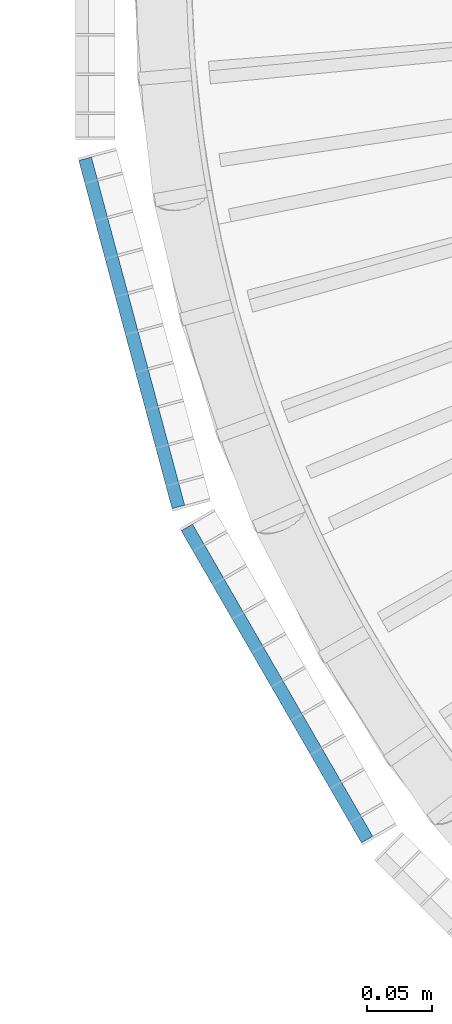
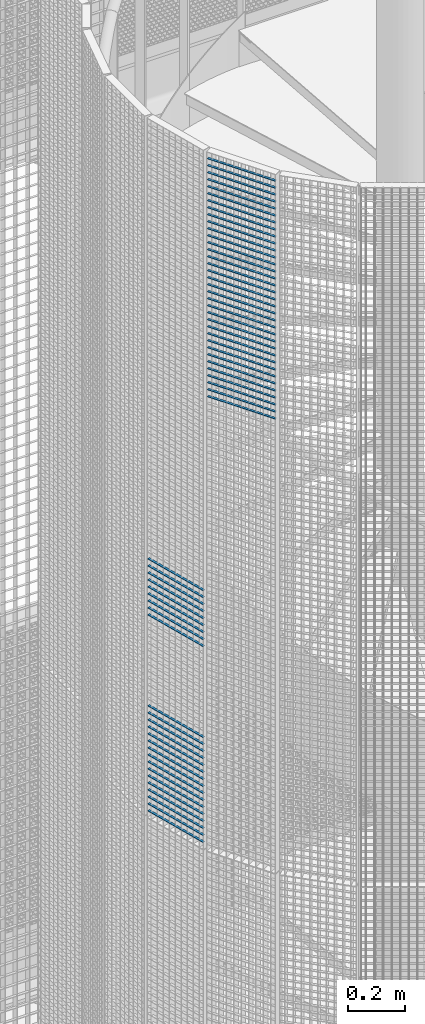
# One storey, part 325 of 1148: 60 beams, 2 elements without a shape of their own.
"""IFC2X3 building model written with IfcOpenShell, lengths in millimetres."""

from ifc_helpers import new_model, si_unit, frame, origin_with_axes, origin_2d_with_axis, place, context, subcontext, project, spatial, rectangle, extrude, material, type_object, element, aggregate, save


model = new_model("IFC2X3")

# Units and contexts
model_context = context("Model", 3, precision=1e-05, world=origin_with_axes())
body_context = subcontext(model_context, "Body", "Model", "MODEL_VIEW")
ifc_project = project(units=[si_unit("LENGTHUNIT", "METRE", prefix="MILLI"), si_unit("AREAUNIT", "SQUARE_METRE"), si_unit("VOLUMEUNIT", "CUBIC_METRE"), si_unit("MASSUNIT", "GRAM", prefix="KILO"), si_unit("TIMEUNIT", "SECOND"), si_unit("PLANEANGLEUNIT", "RADIAN"), si_unit("SOLIDANGLEUNIT", "STERADIAN"), si_unit("THERMODYNAMICTEMPERATUREUNIT", "DEGREE_CELSIUS"), si_unit("LUMINOUSINTENSITYUNIT", "LUMEN")], contexts=[model_context])

# Site, building, storey
site_placement = place(None, origin_with_axes())
site = spatial("IfcSite", under=ifc_project, at=site_placement, Name="Undefined", CompositionType="ELEMENT")
building_placement = place(site_placement, origin_with_axes())
building = spatial("IfcBuilding", under=site, at=building_placement, Name="Undefined", CompositionType="ELEMENT")
storey_placement = place(building_placement, origin_with_axes())
storey = spatial("IfcBuildingStorey", under=building, at=storey_placement, Name="Undefined", CompositionType="ELEMENT", Elevation=0.0)

# Assembly, beams
assembly_1_placement = place(storey_placement, origin_with_axes())
assembly_1 = element("IfcElementAssembly", 1, at=assembly_1_placement, inside=storey, Name="BORDURE", AssemblyPlace="NOTDEFINED", PredefinedType="NOTDEFINED")
ifc_material = material(Name="STEEL/S235JR")
beam_type = type_object("IfcBeamType", Name="PL2*10", PredefinedType="NOTDEFINED")
beam_1_placement = place(assembly_1_placement, frame((20560.1769047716, -421.483733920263, 15480.0), z_axis=(-0.965925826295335, -0.258819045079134, 0.0), x_axis=(-0.258819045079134, 0.965925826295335, 0.0)))
beam_1 = element("IfcBeam", 2, at=beam_1_placement, type_object=beam_type, material=ifc_material, Name="ENTRETOISE", context=body_context, shape_type="SweptSolid", body=[
    extrude(rectangle(XDim=2.0, YDim=10.0, at=origin_2d_with_axis()), frame((275.999999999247, 9.09494701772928e-13, 1.53210777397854e-14), z_axis=(-1.0, 0.0, 0.0), x_axis=(0.0, -1.0, 0.0)), (0.0, 0.0, 1.0), 276.0),
])
beam_2_placement = place(assembly_1_placement, frame((20560.1769047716, -421.483733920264, 15870.0), z_axis=(-0.965925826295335, -0.258819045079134, 0.0), x_axis=(-0.258819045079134, 0.965925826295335, 0.0)))
beam_2 = element("IfcBeam", 3, at=beam_2_placement, type_object=beam_type, material=ifc_material, Name="ENTRETOISE", context=body_context, shape_type="SweptSolid", body=[
    extrude(rectangle(XDim=2.0, YDim=10.0, at=origin_2d_with_axis()), frame((275.999999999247, 9.09494701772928e-13, 1.53210777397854e-14), z_axis=(-1.0, 0.0, 0.0), x_axis=(0.0, -1.0, 0.0)), (0.0, 0.0, 1.0), 276.0),
])
beam_3_placement = place(assembly_1_placement, frame((20560.1769047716, -421.483733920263, 15450.0), z_axis=(-0.965925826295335, -0.258819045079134, 0.0), x_axis=(-0.258819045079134, 0.965925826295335, 0.0)))
beam_3 = element("IfcBeam", 4, at=beam_3_placement, type_object=beam_type, material=ifc_material, Name="ENTRETOISE", context=body_context, shape_type="SweptSolid", body=[
    extrude(rectangle(XDim=2.0, YDim=10.0, at=origin_2d_with_axis()), frame((275.999999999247, 9.09494701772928e-13, 1.53210777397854e-14), z_axis=(-1.0, 0.0, 0.0), x_axis=(0.0, -1.0, 0.0)), (0.0, 0.0, 1.0), 276.0),
])
beam_4_placement = place(assembly_1_placement, frame((20560.1769047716, -421.483733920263, 15420.0), z_axis=(-0.965925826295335, -0.258819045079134, 0.0), x_axis=(-0.258819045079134, 0.965925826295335, 0.0)))
beam_4 = element("IfcBeam", 5, at=beam_4_placement, type_object=beam_type, material=ifc_material, Name="ENTRETOISE", context=body_context, shape_type="SweptSolid", body=[
    extrude(rectangle(XDim=2.0, YDim=10.0, at=origin_2d_with_axis()), frame((275.999999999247, 9.09494701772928e-13, 1.53210777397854e-14), z_axis=(-1.0, 0.0, 0.0), x_axis=(0.0, -1.0, 0.0)), (0.0, 0.0, 1.0), 276.0),
])
beam_5_placement = place(assembly_1_placement, frame((20560.1769047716, -421.483733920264, 15900.0), z_axis=(-0.965925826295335, -0.258819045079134, 0.0), x_axis=(-0.258819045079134, 0.965925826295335, 0.0)))
beam_5 = element("IfcBeam", 6, at=beam_5_placement, type_object=beam_type, material=ifc_material, Name="ENTRETOISE", context=body_context, shape_type="SweptSolid", body=[
    extrude(rectangle(XDim=2.0, YDim=10.0, at=origin_2d_with_axis()), frame((275.999999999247, 9.09494701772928e-13, 1.53210777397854e-14), z_axis=(-1.0, 0.0, 0.0), x_axis=(0.0, -1.0, 0.0)), (0.0, 0.0, 1.0), 276.0),
])
beam_6_placement = place(assembly_1_placement, frame((20560.1769047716, -421.483733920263, 15390.0), z_axis=(-0.965925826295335, -0.258819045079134, 0.0), x_axis=(-0.258819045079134, 0.965925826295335, 0.0)))
beam_6 = element("IfcBeam", 7, at=beam_6_placement, type_object=beam_type, material=ifc_material, Name="ENTRETOISE", context=body_context, shape_type="SweptSolid", body=[
    extrude(rectangle(XDim=2.0, YDim=10.0, at=origin_2d_with_axis()), frame((275.999999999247, 9.09494701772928e-13, 1.53210777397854e-14), z_axis=(-1.0, 0.0, 0.0), x_axis=(0.0, -1.0, 0.0)), (0.0, 0.0, 1.0), 276.0),
])
beam_7_placement = place(assembly_1_placement, frame((20560.1769047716, -421.483733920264, 15930.0), z_axis=(-0.965925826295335, -0.258819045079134, 0.0), x_axis=(-0.258819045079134, 0.965925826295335, 0.0)))
beam_7 = element("IfcBeam", 8, at=beam_7_placement, type_object=beam_type, material=ifc_material, Name="ENTRETOISE", context=body_context, shape_type="SweptSolid", body=[
    extrude(rectangle(XDim=2.0, YDim=10.0, at=origin_2d_with_axis()), frame((275.999999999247, 9.09494701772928e-13, 1.53210777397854e-14), z_axis=(-1.0, 0.0, 0.0), x_axis=(0.0, -1.0, 0.0)), (0.0, 0.0, 1.0), 276.0),
])
beam_8_placement = place(assembly_1_placement, frame((20560.1769047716, -421.483733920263, 15360.0), z_axis=(-0.965925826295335, -0.258819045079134, 0.0), x_axis=(-0.258819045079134, 0.965925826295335, 0.0)))
beam_8 = element("IfcBeam", 9, at=beam_8_placement, type_object=beam_type, material=ifc_material, Name="ENTRETOISE", context=body_context, shape_type="SweptSolid", body=[
    extrude(rectangle(XDim=2.0, YDim=10.0, at=origin_2d_with_axis()), frame((275.999999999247, 9.09494701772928e-13, 1.53210777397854e-14), z_axis=(-1.0, 0.0, 0.0), x_axis=(0.0, -1.0, 0.0)), (0.0, 0.0, 1.0), 276.0),
])
beam_9_placement = place(assembly_1_placement, frame((20560.1769047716, -421.483733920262, 15330.0), z_axis=(-0.965925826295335, -0.258819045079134, 0.0), x_axis=(-0.258819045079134, 0.965925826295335, 0.0)))
beam_9 = element("IfcBeam", 10, at=beam_9_placement, type_object=beam_type, material=ifc_material, Name="ENTRETOISE", context=body_context, shape_type="SweptSolid", body=[
    extrude(rectangle(XDim=2.0, YDim=10.0, at=origin_2d_with_axis()), frame((275.999999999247, 9.09494701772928e-13, 1.53210777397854e-14), z_axis=(-1.0, 0.0, 0.0), x_axis=(0.0, -1.0, 0.0)), (0.0, 0.0, 1.0), 276.0),
])
beam_10_placement = place(assembly_1_placement, frame((20560.1769047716, -421.483733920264, 15960.0), z_axis=(-0.965925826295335, -0.258819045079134, 0.0), x_axis=(-0.258819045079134, 0.965925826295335, 0.0)))
beam_10 = element("IfcBeam", 11, at=beam_10_placement, type_object=beam_type, material=ifc_material, Name="ENTRETOISE", context=body_context, shape_type="SweptSolid", body=[
    extrude(rectangle(XDim=2.0, YDim=10.0, at=origin_2d_with_axis()), frame((275.999999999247, 9.09494701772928e-13, 1.53210777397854e-14), z_axis=(-1.0, 0.0, 0.0), x_axis=(0.0, -1.0, 0.0)), (0.0, 0.0, 1.0), 276.0),
])
beam_11_placement = place(assembly_1_placement, frame((20560.1769047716, -421.483733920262, 15300.0), z_axis=(-0.965925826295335, -0.258819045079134, 0.0), x_axis=(-0.258819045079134, 0.965925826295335, 0.0)))
beam_11 = element("IfcBeam", 12, at=beam_11_placement, type_object=beam_type, material=ifc_material, Name="ENTRETOISE", context=body_context, shape_type="SweptSolid", body=[
    extrude(rectangle(XDim=2.0, YDim=10.0, at=origin_2d_with_axis()), frame((275.999999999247, 9.09494701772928e-13, 1.53210777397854e-14), z_axis=(-1.0, 0.0, 0.0), x_axis=(0.0, -1.0, 0.0)), (0.0, 0.0, 1.0), 276.0),
])
beam_12_placement = place(assembly_1_placement, frame((20560.1769047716, -421.483733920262, 15270.0), z_axis=(-0.965925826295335, -0.258819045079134, 0.0), x_axis=(-0.258819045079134, 0.965925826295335, 0.0)))
beam_12 = element("IfcBeam", 13, at=beam_12_placement, type_object=beam_type, material=ifc_material, Name="ENTRETOISE", context=body_context, shape_type="SweptSolid", body=[
    extrude(rectangle(XDim=2.0, YDim=10.0, at=origin_2d_with_axis()), frame((275.999999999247, 9.09494701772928e-13, 1.53210777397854e-14), z_axis=(-1.0, 0.0, 0.0), x_axis=(0.0, -1.0, 0.0)), (0.0, 0.0, 1.0), 276.0),
])
beam_13_placement = place(assembly_1_placement, frame((20560.1769047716, -421.483733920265, 15990.0), z_axis=(-0.965925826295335, -0.258819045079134, 0.0), x_axis=(-0.258819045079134, 0.965925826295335, 0.0)))
beam_13 = element("IfcBeam", 14, at=beam_13_placement, type_object=beam_type, material=ifc_material, Name="ENTRETOISE", context=body_context, shape_type="SweptSolid", body=[
    extrude(rectangle(XDim=2.0, YDim=10.0, at=origin_2d_with_axis()), frame((275.999999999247, 9.09494701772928e-13, 1.53210777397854e-14), z_axis=(-1.0, 0.0, 0.0), x_axis=(0.0, -1.0, 0.0)), (0.0, 0.0, 1.0), 276.0),
])
beam_14_placement = place(assembly_1_placement, frame((20560.1769047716, -421.483733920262, 15240.0), z_axis=(-0.965925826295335, -0.258819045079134, 0.0), x_axis=(-0.258819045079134, 0.965925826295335, 0.0)))
beam_14 = element("IfcBeam", 15, at=beam_14_placement, type_object=beam_type, material=ifc_material, Name="ENTRETOISE", context=body_context, shape_type="SweptSolid", body=[
    extrude(rectangle(XDim=2.0, YDim=10.0, at=origin_2d_with_axis()), frame((275.999999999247, 9.09494701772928e-13, 1.53210777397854e-14), z_axis=(-1.0, 0.0, 0.0), x_axis=(0.0, -1.0, 0.0)), (0.0, 0.0, 1.0), 276.0),
])
beam_15_placement = place(assembly_1_placement, frame((20560.1769047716, -421.483733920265, 16020.0), z_axis=(-0.965925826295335, -0.258819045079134, 0.0), x_axis=(-0.258819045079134, 0.965925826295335, 0.0)))
beam_15 = element("IfcBeam", 16, at=beam_15_placement, type_object=beam_type, material=ifc_material, Name="ENTRETOISE", context=body_context, shape_type="SweptSolid", body=[
    extrude(rectangle(XDim=2.0, YDim=10.0, at=origin_2d_with_axis()), frame((275.999999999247, 9.09494701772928e-13, 1.53210777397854e-14), z_axis=(-1.0, 0.0, 0.0), x_axis=(0.0, -1.0, 0.0)), (0.0, 0.0, 1.0), 276.0),
])
beam_16_placement = place(assembly_1_placement, frame((20560.1769047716, -421.483733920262, 15210.0), z_axis=(-0.965925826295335, -0.258819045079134, 0.0), x_axis=(-0.258819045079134, 0.965925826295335, 0.0)))
beam_16 = element("IfcBeam", 17, at=beam_16_placement, type_object=beam_type, material=ifc_material, Name="ENTRETOISE", context=body_context, shape_type="SweptSolid", body=[
    extrude(rectangle(XDim=2.0, YDim=10.0, at=origin_2d_with_axis()), frame((275.999999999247, 9.09494701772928e-13, 1.53210777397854e-14), z_axis=(-1.0, 0.0, 0.0), x_axis=(0.0, -1.0, 0.0)), (0.0, 0.0, 1.0), 276.0),
])
beam_17_placement = place(assembly_1_placement, frame((20560.1769047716, -421.483733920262, 15180.0), z_axis=(-0.965925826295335, -0.258819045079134, 0.0), x_axis=(-0.258819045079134, 0.965925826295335, 0.0)))
beam_17 = element("IfcBeam", 18, at=beam_17_placement, type_object=beam_type, material=ifc_material, Name="ENTRETOISE", context=body_context, shape_type="SweptSolid", body=[
    extrude(rectangle(XDim=2.0, YDim=10.0, at=origin_2d_with_axis()), frame((275.999999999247, 9.09494701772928e-13, 1.53210777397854e-14), z_axis=(-1.0, 0.0, 0.0), x_axis=(0.0, -1.0, 0.0)), (0.0, 0.0, 1.0), 276.0),
])
beam_18_placement = place(assembly_1_placement, frame((20560.1769047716, -421.483733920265, 16050.0), z_axis=(-0.965925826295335, -0.258819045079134, 0.0), x_axis=(-0.258819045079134, 0.965925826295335, 0.0)))
beam_18 = element("IfcBeam", 19, at=beam_18_placement, type_object=beam_type, material=ifc_material, Name="ENTRETOISE", context=body_context, shape_type="SweptSolid", body=[
    extrude(rectangle(XDim=2.0, YDim=10.0, at=origin_2d_with_axis()), frame((275.999999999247, 9.09494701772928e-13, 1.53210777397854e-14), z_axis=(-1.0, 0.0, 0.0), x_axis=(0.0, -1.0, 0.0)), (0.0, 0.0, 1.0), 276.0),
])
beam_19_placement = place(assembly_1_placement, frame((20560.1769047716, -421.483733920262, 15150.0), z_axis=(-0.965925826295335, -0.258819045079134, 0.0), x_axis=(-0.258819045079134, 0.965925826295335, 0.0)))
beam_19 = element("IfcBeam", 20, at=beam_19_placement, type_object=beam_type, material=ifc_material, Name="ENTRETOISE", context=body_context, shape_type="SweptSolid", body=[
    extrude(rectangle(XDim=2.0, YDim=10.0, at=origin_2d_with_axis()), frame((275.999999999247, 9.09494701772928e-13, 1.53210777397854e-14), z_axis=(-1.0, 0.0, 0.0), x_axis=(0.0, -1.0, 0.0)), (0.0, 0.0, 1.0), 276.0),
])
beam_20_placement = place(assembly_1_placement, frame((20560.1769047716, -421.483733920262, 15120.0), z_axis=(-0.965925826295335, -0.258819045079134, 0.0), x_axis=(-0.258819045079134, 0.965925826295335, 0.0)))
beam_20 = element("IfcBeam", 21, at=beam_20_placement, type_object=beam_type, material=ifc_material, Name="ENTRETOISE", context=body_context, shape_type="SweptSolid", body=[
    extrude(rectangle(XDim=2.0, YDim=10.0, at=origin_2d_with_axis()), frame((275.999999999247, 9.09494701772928e-13, 1.53210777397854e-14), z_axis=(-1.0, 0.0, 0.0), x_axis=(0.0, -1.0, 0.0)), (0.0, 0.0, 1.0), 276.0),
])
beam_21_placement = place(assembly_1_placement, frame((20560.1769047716, -421.483733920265, 16080.0), z_axis=(-0.965925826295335, -0.258819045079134, 0.0), x_axis=(-0.258819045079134, 0.965925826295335, 0.0)))
beam_21 = element("IfcBeam", 22, at=beam_21_placement, type_object=beam_type, material=ifc_material, Name="ENTRETOISE", context=body_context, shape_type="SweptSolid", body=[
    extrude(rectangle(XDim=2.0, YDim=10.0, at=origin_2d_with_axis()), frame((275.999999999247, 9.09494701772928e-13, 1.53210777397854e-14), z_axis=(-1.0, 0.0, 0.0), x_axis=(0.0, -1.0, 0.0)), (0.0, 0.0, 1.0), 276.0),
])
beam_22_placement = place(assembly_1_placement, frame((20560.1769047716, -421.483733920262, 15090.0), z_axis=(-0.965925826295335, -0.258819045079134, 0.0), x_axis=(-0.258819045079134, 0.965925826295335, 0.0)))
beam_22 = element("IfcBeam", 23, at=beam_22_placement, type_object=beam_type, material=ifc_material, Name="ENTRETOISE", context=body_context, shape_type="SweptSolid", body=[
    extrude(rectangle(XDim=2.0, YDim=10.0, at=origin_2d_with_axis()), frame((275.999999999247, 9.09494701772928e-13, 1.53210777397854e-14), z_axis=(-1.0, 0.0, 0.0), x_axis=(0.0, -1.0, 0.0)), (0.0, 0.0, 1.0), 276.0),
])
beam_23_placement = place(assembly_1_placement, frame((20560.1769047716, -421.483733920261, 15060.0), z_axis=(-0.965925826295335, -0.258819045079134, 0.0), x_axis=(-0.258819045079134, 0.965925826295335, 0.0)))
beam_23 = element("IfcBeam", 24, at=beam_23_placement, type_object=beam_type, material=ifc_material, Name="ENTRETOISE", context=body_context, shape_type="SweptSolid", body=[
    extrude(rectangle(XDim=2.0, YDim=10.0, at=origin_2d_with_axis()), frame((275.999999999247, 9.09494701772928e-13, 1.53210777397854e-14), z_axis=(-1.0, 0.0, 0.0), x_axis=(0.0, -1.0, 0.0)), (0.0, 0.0, 1.0), 276.0),
])
beam_24_placement = place(assembly_1_placement, frame((20560.1769047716, -421.483733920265, 16110.0), z_axis=(-0.965925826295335, -0.258819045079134, 0.0), x_axis=(-0.258819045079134, 0.965925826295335, 0.0)))
beam_24 = element("IfcBeam", 25, at=beam_24_placement, type_object=beam_type, material=ifc_material, Name="ENTRETOISE", context=body_context, shape_type="SweptSolid", body=[
    extrude(rectangle(XDim=2.0, YDim=10.0, at=origin_2d_with_axis()), frame((275.999999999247, 9.09494701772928e-13, 1.53210777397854e-14), z_axis=(-1.0, 0.0, 0.0), x_axis=(0.0, -1.0, 0.0)), (0.0, 0.0, 1.0), 276.0),
])
beam_25_placement = place(assembly_1_placement, frame((20560.1769047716, -421.48373392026, 15030.0), z_axis=(-0.965925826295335, -0.258819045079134, 0.0), x_axis=(-0.258819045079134, 0.965925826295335, 0.0)))
beam_25 = element("IfcBeam", 26, at=beam_25_placement, type_object=beam_type, material=ifc_material, Name="ENTRETOISE", context=body_context, shape_type="SweptSolid", body=[
    extrude(rectangle(XDim=2.0, YDim=10.0, at=origin_2d_with_axis()), frame((275.999999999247, 9.09494701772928e-13, 1.53210777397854e-14), z_axis=(-1.0, 0.0, 0.0), x_axis=(0.0, -1.0, 0.0)), (0.0, 0.0, 1.0), 276.0),
])
aggregate(assembly_1, [beam_1, beam_2, beam_3, beam_4, beam_5, beam_6, beam_7, beam_8, beam_9, beam_10, beam_11, beam_12, beam_13, beam_14, beam_15, beam_16, beam_17, beam_18, beam_19, beam_20, beam_21, beam_22, beam_23, beam_24, beam_25])

assembly_2_placement = place(storey_placement, origin_with_axes())
assembly_2 = element("IfcElementAssembly", 27, at=assembly_2_placement, inside=storey, Name="BORDURE", AssemblyPlace="NOTDEFINED", PredefinedType="NOTDEFINED")
beam_26_placement = place(assembly_2_placement, frame((20704.6960350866, -676.248044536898, 17970.0), z_axis=(-0.866025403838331, -0.499999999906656, 0.0), x_axis=(-0.49999999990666, 0.866025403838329, 0.0)))
beam_26 = element("IfcBeam", 28, at=beam_26_placement, type_object=beam_type, material=ifc_material, Name="ENTRETOISE", context=body_context, shape_type="SweptSolid", body=[
    extrude(rectangle(XDim=2.0, YDim=10.0, at=origin_2d_with_axis()), frame((275.999999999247, 9.09494701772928e-13, 1.53210777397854e-14), z_axis=(-1.0, 0.0, 0.0), x_axis=(0.0, -1.0, 0.0)), (0.0, 0.0, 1.0), 276.0),
])
beam_27_placement = place(assembly_2_placement, frame((20704.6960350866, -676.248044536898, 17940.0), z_axis=(-0.866025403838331, -0.499999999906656, 0.0), x_axis=(-0.49999999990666, 0.866025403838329, 0.0)))
beam_27 = element("IfcBeam", 29, at=beam_27_placement, type_object=beam_type, material=ifc_material, Name="ENTRETOISE", context=body_context, shape_type="SweptSolid", body=[
    extrude(rectangle(XDim=2.0, YDim=10.0, at=origin_2d_with_axis()), frame((275.999999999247, 9.09494701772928e-13, 1.53210777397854e-14), z_axis=(-1.0, 0.0, 0.0), x_axis=(0.0, -1.0, 0.0)), (0.0, 0.0, 1.0), 276.0),
])
beam_28_placement = place(assembly_2_placement, frame((20704.6960350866, -676.248044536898, 17910.0), z_axis=(-0.866025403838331, -0.499999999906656, 0.0), x_axis=(-0.49999999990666, 0.866025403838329, 0.0)))
beam_28 = element("IfcBeam", 30, at=beam_28_placement, type_object=beam_type, material=ifc_material, Name="ENTRETOISE", context=body_context, shape_type="SweptSolid", body=[
    extrude(rectangle(XDim=2.0, YDim=10.0, at=origin_2d_with_axis()), frame((275.999999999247, 9.09494701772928e-13, 1.53210777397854e-14), z_axis=(-1.0, 0.0, 0.0), x_axis=(0.0, -1.0, 0.0)), (0.0, 0.0, 1.0), 276.0),
])
beam_29_placement = place(assembly_2_placement, frame((20704.6960350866, -676.248044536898, 17880.0), z_axis=(-0.866025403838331, -0.499999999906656, 0.0), x_axis=(-0.49999999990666, 0.866025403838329, 0.0)))
beam_29 = element("IfcBeam", 31, at=beam_29_placement, type_object=beam_type, material=ifc_material, Name="ENTRETOISE", context=body_context, shape_type="SweptSolid", body=[
    extrude(rectangle(XDim=2.0, YDim=10.0, at=origin_2d_with_axis()), frame((275.999999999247, 9.09494701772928e-13, 1.53210777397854e-14), z_axis=(-1.0, 0.0, 0.0), x_axis=(0.0, -1.0, 0.0)), (0.0, 0.0, 1.0), 276.0),
])
beam_30_placement = place(assembly_2_placement, frame((20704.6960350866, -676.248044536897, 17850.0), z_axis=(-0.866025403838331, -0.499999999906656, 0.0), x_axis=(-0.49999999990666, 0.866025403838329, 0.0)))
beam_30 = element("IfcBeam", 32, at=beam_30_placement, type_object=beam_type, material=ifc_material, Name="ENTRETOISE", context=body_context, shape_type="SweptSolid", body=[
    extrude(rectangle(XDim=2.0, YDim=10.0, at=origin_2d_with_axis()), frame((275.999999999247, 9.09494701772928e-13, 1.53210777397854e-14), z_axis=(-1.0, 0.0, 0.0), x_axis=(0.0, -1.0, 0.0)), (0.0, 0.0, 1.0), 276.0),
])
beam_31_placement = place(assembly_2_placement, frame((20704.6960350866, -676.248044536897, 17820.0), z_axis=(-0.866025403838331, -0.499999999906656, 0.0), x_axis=(-0.49999999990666, 0.866025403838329, 0.0)))
beam_31 = element("IfcBeam", 33, at=beam_31_placement, type_object=beam_type, material=ifc_material, Name="ENTRETOISE", context=body_context, shape_type="SweptSolid", body=[
    extrude(rectangle(XDim=2.0, YDim=10.0, at=origin_2d_with_axis()), frame((275.999999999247, 9.09494701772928e-13, 1.53210777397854e-14), z_axis=(-1.0, 0.0, 0.0), x_axis=(0.0, -1.0, 0.0)), (0.0, 0.0, 1.0), 276.0),
])
beam_32_placement = place(assembly_2_placement, frame((20704.6960350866, -676.248044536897, 17790.0), z_axis=(-0.866025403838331, -0.499999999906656, 0.0), x_axis=(-0.49999999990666, 0.866025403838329, 0.0)))
beam_32 = element("IfcBeam", 34, at=beam_32_placement, type_object=beam_type, material=ifc_material, Name="ENTRETOISE", context=body_context, shape_type="SweptSolid", body=[
    extrude(rectangle(XDim=2.0, YDim=10.0, at=origin_2d_with_axis()), frame((275.999999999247, 9.09494701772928e-13, 1.53210777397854e-14), z_axis=(-1.0, 0.0, 0.0), x_axis=(0.0, -1.0, 0.0)), (0.0, 0.0, 1.0), 276.0),
])
beam_33_placement = place(assembly_2_placement, frame((20704.6960350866, -676.248044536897, 17760.0), z_axis=(-0.866025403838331, -0.499999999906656, 0.0), x_axis=(-0.49999999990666, 0.866025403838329, 0.0)))
beam_33 = element("IfcBeam", 35, at=beam_33_placement, type_object=beam_type, material=ifc_material, Name="ENTRETOISE", context=body_context, shape_type="SweptSolid", body=[
    extrude(rectangle(XDim=2.0, YDim=10.0, at=origin_2d_with_axis()), frame((275.999999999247, 9.09494701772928e-13, 1.53210777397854e-14), z_axis=(-1.0, 0.0, 0.0), x_axis=(0.0, -1.0, 0.0)), (0.0, 0.0, 1.0), 276.0),
])
beam_34_placement = place(assembly_2_placement, frame((20704.6960350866, -676.248044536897, 17730.0), z_axis=(-0.866025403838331, -0.499999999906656, 0.0), x_axis=(-0.49999999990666, 0.866025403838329, 0.0)))
beam_34 = element("IfcBeam", 36, at=beam_34_placement, type_object=beam_type, material=ifc_material, Name="ENTRETOISE", context=body_context, shape_type="SweptSolid", body=[
    extrude(rectangle(XDim=2.0, YDim=10.0, at=origin_2d_with_axis()), frame((275.999999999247, 9.09494701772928e-13, 1.53210777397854e-14), z_axis=(-1.0, 0.0, 0.0), x_axis=(0.0, -1.0, 0.0)), (0.0, 0.0, 1.0), 276.0),
])
beam_35_placement = place(assembly_2_placement, frame((20704.6960350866, -676.248044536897, 17700.0), z_axis=(-0.866025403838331, -0.499999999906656, 0.0), x_axis=(-0.49999999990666, 0.866025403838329, 0.0)))
beam_35 = element("IfcBeam", 37, at=beam_35_placement, type_object=beam_type, material=ifc_material, Name="ENTRETOISE", context=body_context, shape_type="SweptSolid", body=[
    extrude(rectangle(XDim=2.0, YDim=10.0, at=origin_2d_with_axis()), frame((275.999999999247, 9.09494701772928e-13, 1.53210777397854e-14), z_axis=(-1.0, 0.0, 0.0), x_axis=(0.0, -1.0, 0.0)), (0.0, 0.0, 1.0), 276.0),
])
beam_36_placement = place(assembly_2_placement, frame((20704.6960350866, -676.248044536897, 17670.0), z_axis=(-0.866025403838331, -0.499999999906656, 0.0), x_axis=(-0.49999999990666, 0.866025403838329, 0.0)))
beam_36 = element("IfcBeam", 38, at=beam_36_placement, type_object=beam_type, material=ifc_material, Name="ENTRETOISE", context=body_context, shape_type="SweptSolid", body=[
    extrude(rectangle(XDim=2.0, YDim=10.0, at=origin_2d_with_axis()), frame((275.999999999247, 9.09494701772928e-13, 1.53210777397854e-14), z_axis=(-1.0, 0.0, 0.0), x_axis=(0.0, -1.0, 0.0)), (0.0, 0.0, 1.0), 276.0),
])
beam_37_placement = place(assembly_2_placement, frame((20704.6960350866, -676.248044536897, 17640.0), z_axis=(-0.866025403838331, -0.499999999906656, 0.0), x_axis=(-0.49999999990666, 0.866025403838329, 0.0)))
beam_37 = element("IfcBeam", 39, at=beam_37_placement, type_object=beam_type, material=ifc_material, Name="ENTRETOISE", context=body_context, shape_type="SweptSolid", body=[
    extrude(rectangle(XDim=2.0, YDim=10.0, at=origin_2d_with_axis()), frame((275.999999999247, 9.09494701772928e-13, 1.53210777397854e-14), z_axis=(-1.0, 0.0, 0.0), x_axis=(0.0, -1.0, 0.0)), (0.0, 0.0, 1.0), 276.0),
])
beam_38_placement = place(assembly_2_placement, frame((20704.6960350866, -676.248044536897, 17610.0), z_axis=(-0.866025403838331, -0.499999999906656, 0.0), x_axis=(-0.49999999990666, 0.866025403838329, 0.0)))
beam_38 = element("IfcBeam", 40, at=beam_38_placement, type_object=beam_type, material=ifc_material, Name="ENTRETOISE", context=body_context, shape_type="SweptSolid", body=[
    extrude(rectangle(XDim=2.0, YDim=10.0, at=origin_2d_with_axis()), frame((275.999999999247, 9.09494701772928e-13, 1.53210777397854e-14), z_axis=(-1.0, 0.0, 0.0), x_axis=(0.0, -1.0, 0.0)), (0.0, 0.0, 1.0), 276.0),
])
beam_39_placement = place(assembly_2_placement, frame((20704.6960350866, -676.248044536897, 17580.0), z_axis=(-0.866025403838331, -0.499999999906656, 0.0), x_axis=(-0.49999999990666, 0.866025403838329, 0.0)))
beam_39 = element("IfcBeam", 41, at=beam_39_placement, type_object=beam_type, material=ifc_material, Name="ENTRETOISE", context=body_context, shape_type="SweptSolid", body=[
    extrude(rectangle(XDim=2.0, YDim=10.0, at=origin_2d_with_axis()), frame((275.999999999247, 9.09494701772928e-13, 1.53210777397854e-14), z_axis=(-1.0, 0.0, 0.0), x_axis=(0.0, -1.0, 0.0)), (0.0, 0.0, 1.0), 276.0),
])
beam_40_placement = place(assembly_2_placement, frame((20704.6960350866, -676.248044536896, 17550.0), z_axis=(-0.866025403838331, -0.499999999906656, 0.0), x_axis=(-0.49999999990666, 0.866025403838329, 0.0)))
beam_40 = element("IfcBeam", 42, at=beam_40_placement, type_object=beam_type, material=ifc_material, Name="ENTRETOISE", context=body_context, shape_type="SweptSolid", body=[
    extrude(rectangle(XDim=2.0, YDim=10.0, at=origin_2d_with_axis()), frame((275.999999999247, 9.09494701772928e-13, 1.53210777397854e-14), z_axis=(-1.0, 0.0, 0.0), x_axis=(0.0, -1.0, 0.0)), (0.0, 0.0, 1.0), 276.0),
])
beam_41_placement = place(assembly_2_placement, frame((20704.6960350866, -676.248044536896, 17520.0), z_axis=(-0.866025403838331, -0.499999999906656, 0.0), x_axis=(-0.49999999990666, 0.866025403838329, 0.0)))
beam_41 = element("IfcBeam", 43, at=beam_41_placement, type_object=beam_type, material=ifc_material, Name="ENTRETOISE", context=body_context, shape_type="SweptSolid", body=[
    extrude(rectangle(XDim=2.0, YDim=10.0, at=origin_2d_with_axis()), frame((275.999999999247, 9.09494701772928e-13, 1.53210777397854e-14), z_axis=(-1.0, 0.0, 0.0), x_axis=(0.0, -1.0, 0.0)), (0.0, 0.0, 1.0), 276.0),
])
beam_42_placement = place(assembly_2_placement, frame((20704.6960350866, -676.248044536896, 17490.0), z_axis=(-0.866025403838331, -0.499999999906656, 0.0), x_axis=(-0.49999999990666, 0.866025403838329, 0.0)))
beam_42 = element("IfcBeam", 44, at=beam_42_placement, type_object=beam_type, material=ifc_material, Name="ENTRETOISE", context=body_context, shape_type="SweptSolid", body=[
    extrude(rectangle(XDim=2.0, YDim=10.0, at=origin_2d_with_axis()), frame((275.999999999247, 9.09494701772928e-13, 1.53210777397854e-14), z_axis=(-1.0, 0.0, 0.0), x_axis=(0.0, -1.0, 0.0)), (0.0, 0.0, 1.0), 276.0),
])
beam_43_placement = place(assembly_2_placement, frame((20704.6960350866, -676.248044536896, 17460.0), z_axis=(-0.866025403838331, -0.499999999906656, 0.0), x_axis=(-0.49999999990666, 0.866025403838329, 0.0)))
beam_43 = element("IfcBeam", 45, at=beam_43_placement, type_object=beam_type, material=ifc_material, Name="ENTRETOISE", context=body_context, shape_type="SweptSolid", body=[
    extrude(rectangle(XDim=2.0, YDim=10.0, at=origin_2d_with_axis()), frame((275.999999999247, 9.09494701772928e-13, 1.53210777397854e-14), z_axis=(-1.0, 0.0, 0.0), x_axis=(0.0, -1.0, 0.0)), (0.0, 0.0, 1.0), 276.0),
])
beam_44_placement = place(assembly_2_placement, frame((20704.6960350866, -676.248044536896, 17430.0), z_axis=(-0.866025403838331, -0.499999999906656, 0.0), x_axis=(-0.49999999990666, 0.866025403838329, 0.0)))
beam_44 = element("IfcBeam", 46, at=beam_44_placement, type_object=beam_type, material=ifc_material, Name="ENTRETOISE", context=body_context, shape_type="SweptSolid", body=[
    extrude(rectangle(XDim=2.0, YDim=10.0, at=origin_2d_with_axis()), frame((275.999999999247, 9.09494701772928e-13, 1.53210777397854e-14), z_axis=(-1.0, 0.0, 0.0), x_axis=(0.0, -1.0, 0.0)), (0.0, 0.0, 1.0), 276.0),
])
beam_45_placement = place(assembly_2_placement, frame((20704.6960350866, -676.248044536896, 17400.0), z_axis=(-0.866025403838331, -0.499999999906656, 0.0), x_axis=(-0.49999999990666, 0.866025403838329, 0.0)))
beam_45 = element("IfcBeam", 47, at=beam_45_placement, type_object=beam_type, material=ifc_material, Name="ENTRETOISE", context=body_context, shape_type="SweptSolid", body=[
    extrude(rectangle(XDim=2.0, YDim=10.0, at=origin_2d_with_axis()), frame((275.999999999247, 9.09494701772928e-13, 1.53210777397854e-14), z_axis=(-1.0, 0.0, 0.0), x_axis=(0.0, -1.0, 0.0)), (0.0, 0.0, 1.0), 276.0),
])
beam_46_placement = place(assembly_2_placement, frame((20704.6960350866, -676.248044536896, 17370.0), z_axis=(-0.866025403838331, -0.499999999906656, 0.0), x_axis=(-0.49999999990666, 0.866025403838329, 0.0)))
beam_46 = element("IfcBeam", 48, at=beam_46_placement, type_object=beam_type, material=ifc_material, Name="ENTRETOISE", context=body_context, shape_type="SweptSolid", body=[
    extrude(rectangle(XDim=2.0, YDim=10.0, at=origin_2d_with_axis()), frame((275.999999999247, 9.09494701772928e-13, 1.53210777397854e-14), z_axis=(-1.0, 0.0, 0.0), x_axis=(0.0, -1.0, 0.0)), (0.0, 0.0, 1.0), 276.0),
])
beam_47_placement = place(assembly_2_placement, frame((20704.6960350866, -676.248044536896, 17340.0), z_axis=(-0.866025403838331, -0.499999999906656, 0.0), x_axis=(-0.49999999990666, 0.866025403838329, 0.0)))
beam_47 = element("IfcBeam", 49, at=beam_47_placement, type_object=beam_type, material=ifc_material, Name="ENTRETOISE", context=body_context, shape_type="SweptSolid", body=[
    extrude(rectangle(XDim=2.0, YDim=10.0, at=origin_2d_with_axis()), frame((275.999999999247, 9.09494701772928e-13, 1.53210777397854e-14), z_axis=(-1.0, 0.0, 0.0), x_axis=(0.0, -1.0, 0.0)), (0.0, 0.0, 1.0), 276.0),
])
beam_48_placement = place(assembly_2_placement, frame((20704.6960350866, -676.248044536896, 17310.0), z_axis=(-0.866025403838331, -0.499999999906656, 0.0), x_axis=(-0.49999999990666, 0.866025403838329, 0.0)))
beam_48 = element("IfcBeam", 50, at=beam_48_placement, type_object=beam_type, material=ifc_material, Name="ENTRETOISE", context=body_context, shape_type="SweptSolid", body=[
    extrude(rectangle(XDim=2.0, YDim=10.0, at=origin_2d_with_axis()), frame((275.999999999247, 9.09494701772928e-13, 1.53210777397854e-14), z_axis=(-1.0, 0.0, 0.0), x_axis=(0.0, -1.0, 0.0)), (0.0, 0.0, 1.0), 276.0),
])
beam_49_placement = place(assembly_2_placement, frame((20704.6960350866, -676.248044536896, 17280.0), z_axis=(-0.866025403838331, -0.499999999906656, 0.0), x_axis=(-0.49999999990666, 0.866025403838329, 0.0)))
beam_49 = element("IfcBeam", 51, at=beam_49_placement, type_object=beam_type, material=ifc_material, Name="ENTRETOISE", context=body_context, shape_type="SweptSolid", body=[
    extrude(rectangle(XDim=2.0, YDim=10.0, at=origin_2d_with_axis()), frame((275.999999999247, 9.09494701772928e-13, 1.53210777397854e-14), z_axis=(-1.0, 0.0, 0.0), x_axis=(0.0, -1.0, 0.0)), (0.0, 0.0, 1.0), 276.0),
])
beam_50_placement = place(assembly_2_placement, frame((20704.6960350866, -676.248044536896, 17250.0), z_axis=(-0.866025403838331, -0.499999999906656, 0.0), x_axis=(-0.49999999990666, 0.866025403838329, 0.0)))
beam_50 = element("IfcBeam", 52, at=beam_50_placement, type_object=beam_type, material=ifc_material, Name="ENTRETOISE", context=body_context, shape_type="SweptSolid", body=[
    extrude(rectangle(XDim=2.0, YDim=10.0, at=origin_2d_with_axis()), frame((275.999999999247, 9.09494701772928e-13, 1.53210777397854e-14), z_axis=(-1.0, 0.0, 0.0), x_axis=(0.0, -1.0, 0.0)), (0.0, 0.0, 1.0), 276.0),
])
beam_51_placement = place(assembly_2_placement, frame((20704.6960350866, -676.248044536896, 17220.0), z_axis=(-0.866025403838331, -0.499999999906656, 0.0), x_axis=(-0.49999999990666, 0.866025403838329, 0.0)))
beam_51 = element("IfcBeam", 53, at=beam_51_placement, type_object=beam_type, material=ifc_material, Name="ENTRETOISE", context=body_context, shape_type="SweptSolid", body=[
    extrude(rectangle(XDim=2.0, YDim=10.0, at=origin_2d_with_axis()), frame((275.999999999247, 9.09494701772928e-13, 1.53210777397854e-14), z_axis=(-1.0, 0.0, 0.0), x_axis=(0.0, -1.0, 0.0)), (0.0, 0.0, 1.0), 276.0),
])
beam_52_placement = place(assembly_2_placement, frame((20704.6960350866, -676.248044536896, 17190.0), z_axis=(-0.866025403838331, -0.499999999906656, 0.0), x_axis=(-0.49999999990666, 0.866025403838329, 0.0)))
beam_52 = element("IfcBeam", 54, at=beam_52_placement, type_object=beam_type, material=ifc_material, Name="ENTRETOISE", context=body_context, shape_type="SweptSolid", body=[
    extrude(rectangle(XDim=2.0, YDim=10.0, at=origin_2d_with_axis()), frame((275.999999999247, 9.09494701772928e-13, 1.53210777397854e-14), z_axis=(-1.0, 0.0, 0.0), x_axis=(0.0, -1.0, 0.0)), (0.0, 0.0, 1.0), 276.0),
])
beam_53_placement = place(assembly_2_placement, frame((20704.6960350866, -676.248044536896, 17160.0), z_axis=(-0.866025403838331, -0.499999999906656, 0.0), x_axis=(-0.49999999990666, 0.866025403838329, 0.0)))
beam_53 = element("IfcBeam", 55, at=beam_53_placement, type_object=beam_type, material=ifc_material, Name="ENTRETOISE", context=body_context, shape_type="SweptSolid", body=[
    extrude(rectangle(XDim=2.0, YDim=10.0, at=origin_2d_with_axis()), frame((275.999999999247, 9.09494701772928e-13, 1.53210777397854e-14), z_axis=(-1.0, 0.0, 0.0), x_axis=(0.0, -1.0, 0.0)), (0.0, 0.0, 1.0), 276.0),
])
beam_54_placement = place(assembly_2_placement, frame((20704.6960350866, -676.248044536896, 17130.0), z_axis=(-0.866025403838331, -0.499999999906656, 0.0), x_axis=(-0.49999999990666, 0.866025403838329, 0.0)))
beam_54 = element("IfcBeam", 56, at=beam_54_placement, type_object=beam_type, material=ifc_material, Name="ENTRETOISE", context=body_context, shape_type="SweptSolid", body=[
    extrude(rectangle(XDim=2.0, YDim=10.0, at=origin_2d_with_axis()), frame((275.999999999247, 9.09494701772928e-13, 1.53210777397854e-14), z_axis=(-1.0, 0.0, 0.0), x_axis=(0.0, -1.0, 0.0)), (0.0, 0.0, 1.0), 276.0),
])
beam_55_placement = place(assembly_2_placement, frame((20704.6960350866, -676.248044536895, 17100.0), z_axis=(-0.866025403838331, -0.499999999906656, 0.0), x_axis=(-0.49999999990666, 0.866025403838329, 0.0)))
beam_55 = element("IfcBeam", 57, at=beam_55_placement, type_object=beam_type, material=ifc_material, Name="ENTRETOISE", context=body_context, shape_type="SweptSolid", body=[
    extrude(rectangle(XDim=2.0, YDim=10.0, at=origin_2d_with_axis()), frame((275.999999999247, 9.09494701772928e-13, 1.53210777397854e-14), z_axis=(-1.0, 0.0, 0.0), x_axis=(0.0, -1.0, 0.0)), (0.0, 0.0, 1.0), 276.0),
])
beam_56_placement = place(assembly_2_placement, frame((20704.6960350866, -676.248044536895, 17070.0), z_axis=(-0.866025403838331, -0.499999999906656, 0.0), x_axis=(-0.49999999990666, 0.866025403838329, 0.0)))
beam_56 = element("IfcBeam", 58, at=beam_56_placement, type_object=beam_type, material=ifc_material, Name="ENTRETOISE", context=body_context, shape_type="SweptSolid", body=[
    extrude(rectangle(XDim=2.0, YDim=10.0, at=origin_2d_with_axis()), frame((275.999999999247, 9.09494701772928e-13, 1.53210777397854e-14), z_axis=(-1.0, 0.0, 0.0), x_axis=(0.0, -1.0, 0.0)), (0.0, 0.0, 1.0), 276.0),
])
beam_57_placement = place(assembly_2_placement, frame((20704.6960350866, -676.248044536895, 17040.0), z_axis=(-0.866025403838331, -0.499999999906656, 0.0), x_axis=(-0.49999999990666, 0.866025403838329, 0.0)))
beam_57 = element("IfcBeam", 59, at=beam_57_placement, type_object=beam_type, material=ifc_material, Name="ENTRETOISE", context=body_context, shape_type="SweptSolid", body=[
    extrude(rectangle(XDim=2.0, YDim=10.0, at=origin_2d_with_axis()), frame((275.999999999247, 9.09494701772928e-13, 1.53210777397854e-14), z_axis=(-1.0, 0.0, 0.0), x_axis=(0.0, -1.0, 0.0)), (0.0, 0.0, 1.0), 276.0),
])
beam_58_placement = place(assembly_2_placement, frame((20704.6960350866, -676.248044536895, 17010.0), z_axis=(-0.866025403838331, -0.499999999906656, 0.0), x_axis=(-0.49999999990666, 0.866025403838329, 0.0)))
beam_58 = element("IfcBeam", 60, at=beam_58_placement, type_object=beam_type, material=ifc_material, Name="ENTRETOISE", context=body_context, shape_type="SweptSolid", body=[
    extrude(rectangle(XDim=2.0, YDim=10.0, at=origin_2d_with_axis()), frame((275.999999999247, 9.09494701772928e-13, 1.53210777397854e-14), z_axis=(-1.0, 0.0, 0.0), x_axis=(0.0, -1.0, 0.0)), (0.0, 0.0, 1.0), 276.0),
])
beam_59_placement = place(assembly_2_placement, frame((20704.6960350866, -676.248044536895, 16980.0), z_axis=(-0.866025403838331, -0.499999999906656, 0.0), x_axis=(-0.49999999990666, 0.866025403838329, 0.0)))
beam_59 = element("IfcBeam", 61, at=beam_59_placement, type_object=beam_type, material=ifc_material, Name="ENTRETOISE", context=body_context, shape_type="SweptSolid", body=[
    extrude(rectangle(XDim=2.0, YDim=10.0, at=origin_2d_with_axis()), frame((275.999999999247, 9.09494701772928e-13, 1.53210777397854e-14), z_axis=(-1.0, 0.0, 0.0), x_axis=(0.0, -1.0, 0.0)), (0.0, 0.0, 1.0), 276.0),
])
beam_60_placement = place(assembly_2_placement, frame((20704.6960350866, -676.248044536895, 16950.0), z_axis=(-0.866025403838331, -0.499999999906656, 0.0), x_axis=(-0.49999999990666, 0.866025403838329, 0.0)))
beam_60 = element("IfcBeam", 62, at=beam_60_placement, type_object=beam_type, material=ifc_material, Name="ENTRETOISE", context=body_context, shape_type="SweptSolid", body=[
    extrude(rectangle(XDim=2.0, YDim=10.0, at=origin_2d_with_axis()), frame((275.999999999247, 9.09494701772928e-13, 1.53210777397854e-14), z_axis=(-1.0, 0.0, 0.0), x_axis=(0.0, -1.0, 0.0)), (0.0, 0.0, 1.0), 276.0),
])
aggregate(assembly_2, [beam_26, beam_27, beam_28, beam_29, beam_30, beam_31, beam_32, beam_33, beam_34, beam_35, beam_36, beam_37, beam_38, beam_39, beam_40, beam_41, beam_42, beam_43, beam_44, beam_45, beam_46, beam_47, beam_48, beam_49, beam_50, beam_51, beam_52, beam_53, beam_54, beam_55, beam_56, beam_57, beam_58, beam_59, beam_60])

save(model, "model.ifc")
